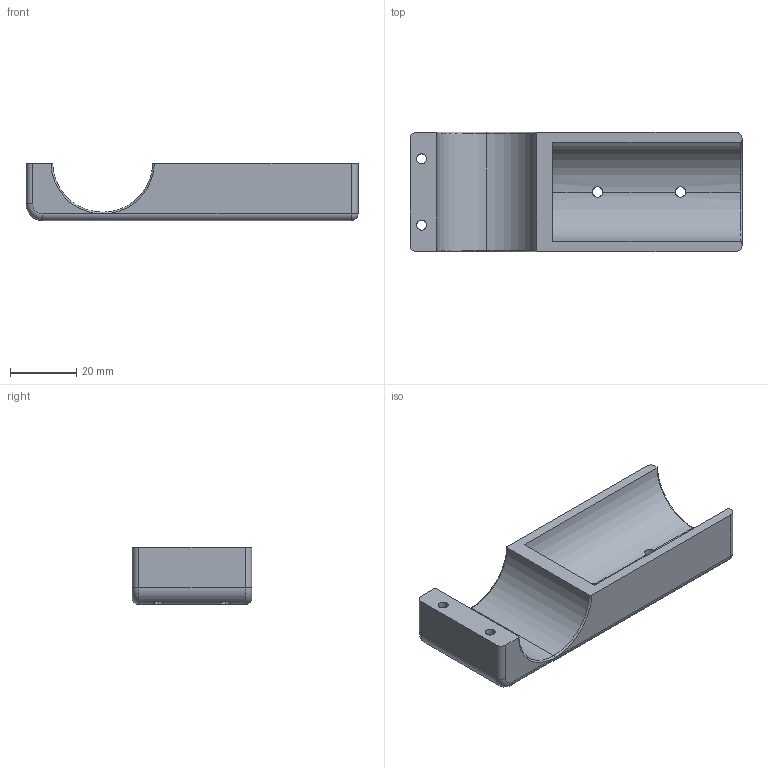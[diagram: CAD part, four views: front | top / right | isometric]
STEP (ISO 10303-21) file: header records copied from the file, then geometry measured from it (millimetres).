
FILE_DESCRIPTION (( 'STEP AP214' ), '1' );
FILE_NAME ('脚架中心拉杆管夹公-2.STEP', '2024-05-30T01:52:47', ( 'China' ), ( 'Microsoft' ), 'SwSTEP 2.0', 'SolidWorks 2021', '' );
FILE_SCHEMA (( 'AUTOMOTIVE_DESIGN' ));
Length unit declared in the file: millimetre
Products named in the file (1): 脚架中心拉杆管夹公-2
Bounding box: 100 x 36 x 17.2 mm (x, y, z)
Volume: 29266.3 mm3; surface area: 12637.3 mm2
Topology: 1 solids, 1 shells, 39 faces, 101 edges, 58 vertices
Faces by surface type: cylinder 20, plane 10, torus 7, sphere 2
Entity records: 1418 total; most frequent: CARTESIAN_POINT 431, DIRECTION 206, ORIENTED_EDGE 198, EDGE_CURVE 99, AXIS2_PLACEMENT_3D 81, VERTEX_POINT 58, LINE 44, VECTOR 44
